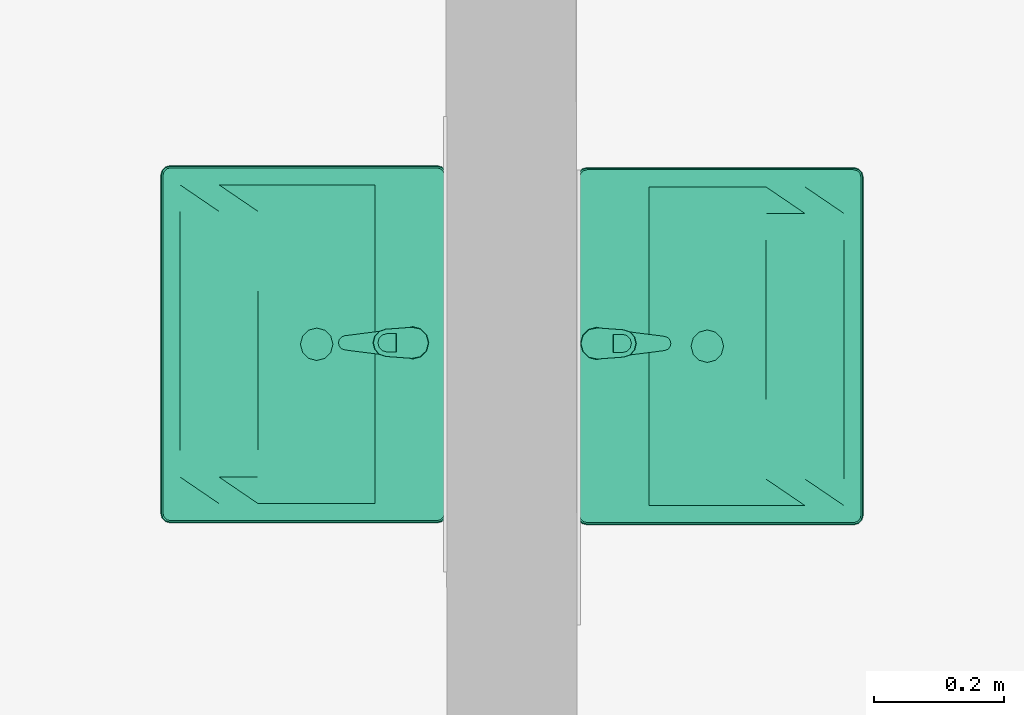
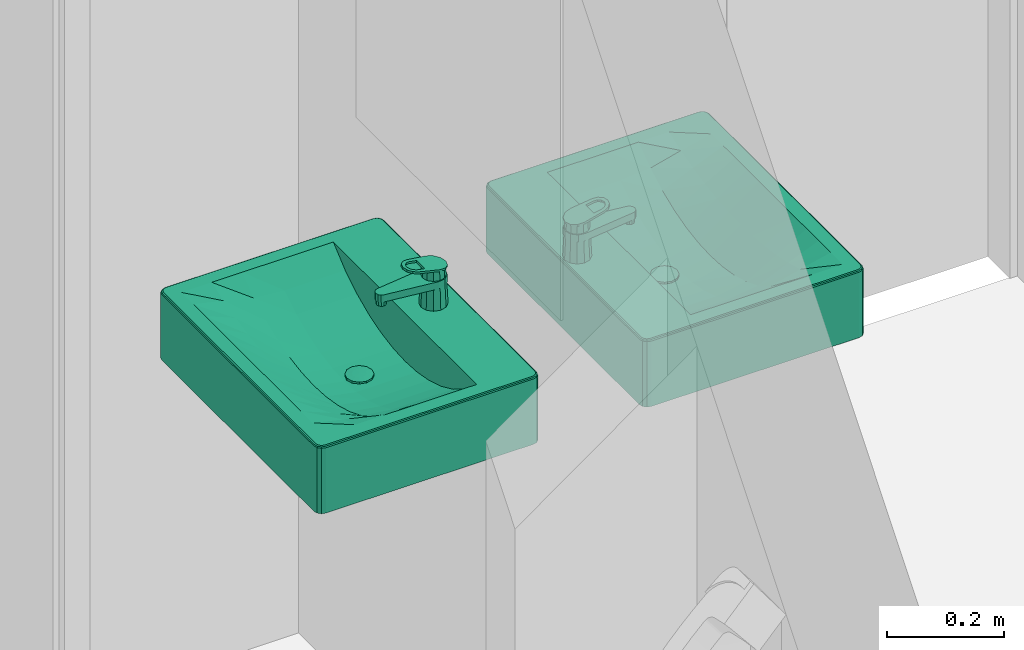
# One storey, part 75 of 127: 4 flow terminals.
"""IFC2X3 building model written with IfcOpenShell, lengths in millimetres."""

from ifc_helpers import new_model, entity, si_unit, converted_unit, derived_unit, money_unit, direction, frame, origin_with_axes, place, context, subcontext, project, spatial, open_shell, faceted_brep, surface_model, source, transform, mapped, type_object, element, save


model = new_model("IFC2X3")

# Units and contexts
model_context = context("Model", 3, precision=1e-05, world=origin_with_axes(), true_north=direction((0.0, 1.0)))
body_context = subcontext(model_context, "Body", "Model", "MODEL_VIEW")
ifc_project = project(units=[si_unit("LENGTHUNIT", "METRE", prefix="MILLI"), si_unit("AREAUNIT", "SQUARE_METRE"), si_unit("VOLUMEUNIT", "CUBIC_METRE"), converted_unit("PLANEANGLEUNIT", "DEGREE", entity("IfcPlaneAngleMeasure", 0.0174532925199), si_unit("PLANEANGLEUNIT", "RADIAN"), dimensions=[0, 0, 0, 0, 0, 0, 0]), si_unit("SOLIDANGLEUNIT", "STERADIAN"), money_unit("EUR"), converted_unit("TIMEUNIT", "Year", entity("IfcTimeMeasure", 31556926.0), si_unit("TIMEUNIT", "SECOND"), dimensions=[0, 0, 1, 0, 0, 0, 0]), si_unit("MASSUNIT", "GRAM", prefix="KILO"), si_unit("THERMODYNAMICTEMPERATUREUNIT", "DEGREE_CELSIUS"), si_unit("LUMINOUSINTENSITYUNIT", "LUMEN"), si_unit("ENERGYUNIT", "JOULE", prefix="MEGA"), derived_unit("THERMALCONDUCTANCEUNIT", [(si_unit("POWERUNIT", "WATT"), 1), (si_unit("LENGTHUNIT", "METRE"), -1), (si_unit("THERMODYNAMICTEMPERATUREUNIT", "KELVIN"), -1)]), derived_unit("SPECIFICHEATCAPACITYUNIT", [(si_unit("ENERGYUNIT", "JOULE"), 1), (si_unit("MASSUNIT", "GRAM", prefix="KILO"), -1), (si_unit("THERMODYNAMICTEMPERATUREUNIT", "KELVIN"), -1)]), derived_unit("MASSDENSITYUNIT", [(si_unit("MASSUNIT", "GRAM", prefix="KILO"), 1), (si_unit("VOLUMEUNIT", "CUBIC_METRE"), -1)])], contexts=[model_context])

# Site, building, storey
site_placement = place(None, origin_with_axes())
site = spatial("IfcSite", under=ifc_project, at=site_placement, Name="Site", CompositionType="ELEMENT")
building_placement = place(site_placement, origin_with_axes())
building = spatial("IfcBuilding", under=site, at=building_placement, Name="Building", CompositionType="ELEMENT")
storey_placement = place(building_placement, origin_with_axes())
storey = spatial("IfcBuildingStorey", under=building, at=storey_placement, Name="1 KORRUS", CompositionType="ELEMENT", Elevation=0.0)

# Flow terminals
sanitary_terminal_type_1 = type_object("IfcSanitaryTerminalType", Name="Basin 22", PredefinedType="NOTDEFINED")
shared_shape_1 = source(origin_with_axes(), body_context, "Body", "SurfaceModel", [
    faceted_brep([(260.0, -440.0, 860.0), (-260.0, -440.0, 860.0), (-267.5, -437.990381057, 860.0), (-272.990381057, -432.5, 860.0), (-275.0, -425.0, 860.0), (-275.0, -15.0, 860.0), (-272.990381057, -7.5, 860.0), (-267.5, -2.00961894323, 860.0), (-260.0, 0.0, 860.0), (260.0, 0.0, 860.0), (267.5, -2.00961894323, 860.0), (272.990381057, -7.5, 860.0), (275.0, -15.0, 860.0), (275.0, -425.0, 860.0), (272.990381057, -432.5, 860.0), (267.5, -437.990381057, 860.0), (-245.0, -410.0, 860.0), (245.0, -410.0, 860.0), (245.0, -110.0, 860.0), (-245.0, -110.0, 860.0), (259.999999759, -440.00000039, 995.0), (-259.999999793, -440.00000039, 995.0), (-267.500000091, -437.990381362, 995.0), (-272.990381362, -432.500000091, 995.0), (-275.00000039, -424.999999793, 995.0), (-275.00000039, -14.9999996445, 995.0), (-272.990381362, -7.50000027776, 995.0), (-267.500000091, -2.00961900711, 995.0), (-259.999999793, 2.02655670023e-08, 995.0), (259.999999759, 2.02655670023e-08, 995.0), (267.500000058, -2.00961900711, 995.0), (272.990381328, -7.50000027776, 995.0), (275.000000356, -14.9999996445, 995.0), (275.000000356, -424.999999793, 995.0), (272.990381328, -432.500000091, 995.0), (267.500000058, -437.990381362, 995.0), (-245.0, -410.0, 999.999999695), (245.0, -410.0, 999.999999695), (245.0, -110.0, 999.999999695), (-245.0, -110.0, 999.999999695), (259.977570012, -439.829629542, 996.294095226), (-259.977570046, -439.829629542, 996.294095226), (-267.411809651, -437.837631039, 996.294095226), (-272.837631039, -432.411809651, 996.294095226), (-274.829629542, -424.977570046, 996.294095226), (-274.829629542, -15.0224293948, 996.294095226), (-272.837631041, -7.58819072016, 996.294095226), (-267.411809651, -2.16236933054, 996.294095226), (-259.977570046, -0.170370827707, 996.294095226), (259.977570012, -0.170370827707, 996.294095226), (267.411809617, -2.16236933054, 996.294095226), (272.837631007, -7.58819072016, 996.294095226), (274.829629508, -15.0224293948, 996.294095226), (274.829629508, -424.977570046, 996.294095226), (272.837631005, -432.411809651, 996.294095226), (267.411809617, -437.837631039, 996.294095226), (-259.34173768, -4.99999712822, 999.999999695), (-264.911811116, -6.49249381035, 999.999999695), (-268.507506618, -10.0881893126, 999.999999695), (-270.000003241, -15.6582618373, 999.999999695), (-270.000003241, -424.34173768, 999.999999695), (-268.507506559, -429.911811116, 999.999999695), (-264.911811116, -433.507506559, 999.999999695), (-259.34173768, -435.000003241, 999.999999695), (259.341737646, -435.000003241, 999.999999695), (264.911811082, -433.507506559, 999.999999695), (268.507506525, -429.911811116, 999.999999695), (270.000003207, -424.34173768, 999.999999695), (270.000003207, -15.6582618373, 999.999999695), (268.507506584, -10.0881893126, 999.999999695), (264.911811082, -6.49249381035, 999.999999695), (259.341737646, -4.99999712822, 999.999999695), (259.807199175, -438.535534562, 998.535533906), (-259.807199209, -438.535534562, 998.535533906), (-266.741936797, -436.677377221, 998.535533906), (-271.677377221, -431.741936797, 998.535533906), (-273.535534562, -424.807199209, 998.535533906), (-273.535534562, -15.1928002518, 998.535533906), (-271.677377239, -8.2580635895, 998.535533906), (-266.741936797, -3.32262314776, 998.535533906), (-259.807199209, -1.46446580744, 998.535533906), (259.807199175, -1.46446580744, 998.535533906), (266.741936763, -3.32262314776, 998.535533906), (271.677377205, -8.2580635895, 998.535533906), (273.535534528, -15.1928002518, 998.535533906), (273.535534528, -424.807199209, 998.535533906), (271.677377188, -431.741936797, 998.535533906), (266.741936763, -436.677377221, 998.535533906), (-265.581682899, -5.33224184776, 999.829629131), (-259.512108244, -3.70590421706, 999.829629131), (-269.667758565, -9.41831751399, 999.829629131), (-271.294096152, -15.4878912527, 999.829629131), (-271.294096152, -424.512108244, 999.829629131), (-269.667758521, -430.581682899, 999.829629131), (-265.581682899, -434.667758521, 999.829629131), (-259.512108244, -436.294096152, 999.829629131), (259.51210821, -436.294096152, 999.829629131), (265.581682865, -434.667758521, 999.829629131), (269.667758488, -430.581682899, 999.829629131), (271.294096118, -424.512108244, 999.829629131), (271.294096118, -15.4878912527, 999.829629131), (269.667758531, -9.41831751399, 999.829629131), (265.581682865, -5.33224184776, 999.829629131), (259.51210821, -3.70590421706, 999.829629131)], [[[0, 1, 2, 3, 4, 5, 6, 7, 8, 9, 10, 11, 12, 13, 14, 15], [16, 17, 18, 19]], [[0, 20, 21, 1]], [[1, 21, 22, 2]], [[2, 22, 23, 3]], [[3, 23, 24, 4]], [[4, 24, 25, 5]], [[5, 25, 26, 6]], [[6, 26, 27, 7]], [[7, 27, 28, 8]], [[8, 28, 29, 9]], [[9, 29, 30, 10]], [[10, 30, 31, 11]], [[11, 31, 32, 12]], [[12, 32, 33, 13]], [[13, 33, 34, 14]], [[14, 34, 35, 15]], [[15, 35, 20, 0]], [[36, 37, 17, 16]], [[37, 38, 18, 17]], [[38, 39, 19, 18]], [[39, 36, 16, 19]], [[20, 40, 41, 21]], [[21, 41, 42, 22]], [[22, 42, 43, 23]], [[23, 43, 44, 24]], [[24, 44, 45, 25]], [[25, 45, 46, 26]], [[26, 46, 47, 27]], [[27, 47, 48, 28]], [[28, 48, 49, 29]], [[29, 49, 50, 30]], [[30, 50, 51, 31]], [[31, 51, 52, 32]], [[32, 52, 53, 33]], [[33, 53, 54, 34]], [[34, 54, 55, 35]], [[35, 55, 40, 20]], [[56, 57, 58, 59, 60, 61, 62, 63, 64, 65, 66, 67, 68, 69, 70, 71], [36, 39, 38, 37]], [[40, 72, 73, 41]], [[41, 73, 74, 42]], [[42, 74, 75, 43]], [[43, 75, 76, 44]], [[44, 76, 77, 45]], [[45, 77, 78, 46]], [[46, 78, 79, 47]], [[47, 79, 80, 48]], [[48, 80, 81, 49]], [[49, 81, 82, 50]], [[50, 82, 83, 51]], [[51, 83, 84, 52]], [[52, 84, 85, 53]], [[53, 85, 86, 54]], [[54, 86, 87, 55]], [[55, 87, 72, 40]], [[88, 57, 56, 89]], [[90, 58, 57, 88]], [[91, 59, 58, 90]], [[92, 60, 59, 91]], [[93, 61, 60, 92]], [[94, 62, 61, 93]], [[95, 63, 62, 94]], [[96, 64, 63, 95]], [[97, 65, 64, 96]], [[98, 66, 65, 97]], [[99, 67, 66, 98]], [[100, 68, 67, 99]], [[101, 69, 68, 100]], [[102, 70, 69, 101]], [[103, 71, 70, 102]], [[89, 56, 71, 103]], [[72, 96, 95, 73]], [[73, 95, 94, 74]], [[74, 94, 93, 75]], [[75, 93, 92, 76]], [[76, 92, 91, 77]], [[77, 91, 90, 78]], [[78, 90, 88, 79]], [[79, 88, 89, 80]], [[80, 89, 103, 81]], [[81, 103, 102, 82]], [[82, 102, 101, 83]], [[83, 101, 100, 84]], [[84, 100, 99, 85]], [[85, 99, 98, 86]], [[86, 98, 97, 87]], [[87, 97, 96, 72]]]),
    faceted_brep([(-245.0, -410.0, 860.0), (-245.0, -110.0, 860.0), (245.0, -110.0, 860.0), (245.0, -410.0, 860.0), (12.5, -221.641635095, 860.0), (21.6506350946, -212.491, 860.0), (25.0, -199.991, 860.0), (21.6506350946, -187.491, 860.0), (12.5, -178.340364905, 860.0), (0.0, -174.991, 860.0), (-12.5, -178.340364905, 860.0), (-21.6506350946, -187.491, 860.0), (-25.0, -199.991, 860.0), (-21.6506350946, -212.491, 860.0), (-12.5, -221.641635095, 860.0), (0.0, -224.991, 860.0), (-245.0, -290.0, 1000.0), (-245.0, -230.0, 1000.0), (-245.0, -170.0, 1000.0), (-245.0, -110.0, 1000.0), (-245.0, -410.0, 1000.0), (-245.0, -350.0, 1000.0), (122.5, -110.0, 922.129168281), (163.333333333, -110.0, 940.432026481), (204.166666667, -110.0, 965.689615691), (245.0, -110.0, 1000.0), (-204.166666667, -110.0, 965.689615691), (-163.333333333, -110.0, 940.432026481), (-122.5, -110.0, 922.129168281), (-81.6666666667, -110.0, 909.657569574), (-40.8333333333, -110.0, 902.389246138), (0.0, -110.0, 900.0), (40.8333333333, -110.0, 902.389246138), (81.6666666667, -110.0, 909.657569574), (245.0, -230.0, 1000.0), (245.0, -290.0, 1000.0), (245.0, -350.0, 1000.0), (245.0, -410.0, 1000.0), (245.0, -170.0, 1000.0), (-122.5, -410.0, 1000.0), (-163.333333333, -410.0, 1000.0), (-204.166666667, -410.0, 1000.0), (204.166666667, -410.0, 1000.0), (163.333333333, -410.0, 1000.0), (122.5, -410.0, 1000.0), (81.6666666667, -410.0, 1000.0), (40.8333333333, -410.0, 1000.0), (0.0, -410.0, 1000.0), (-40.8333333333, -410.0, 1000.0), (-81.6666666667, -410.0, 1000.0), (12.5, -221.641635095, 900.731401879), (21.6506350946, -212.491, 901.266825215), (25.0, -199.991, 901.462803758), (21.6506350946, -187.491, 901.266825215), (12.5, -178.340364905, 900.731401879), (0.0, -174.991, 900.0), (-12.5, -178.340364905, 900.731401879), (-21.6506350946, -187.491, 901.266825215), (-25.0, -199.991, 901.462803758), (-21.6506350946, -212.491, 901.266825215), (-12.5, -221.641635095, 900.731401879), (0.0, -224.991, 900.0), (-204.166666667, -230.0, 965.689615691), (-204.166666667, -170.0, 965.689615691), (-204.166666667, -350.0, 986.166287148), (-204.166666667, -290.0, 970.594758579), (163.333333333, -170.0, 940.432026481), (122.5, -170.0, 922.129168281), (204.166666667, -170.0, 965.689615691), (-163.333333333, -170.0, 940.432026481), (-122.5, -170.0, 922.129168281), (-81.6666666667, -170.0, 909.657569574), (-40.8333333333, -170.0, 902.389246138), (0.0, -170.0, 900.0), (40.8333333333, -170.0, 902.389246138), (81.6666666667, -170.0, 909.657569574), (204.166666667, -290.0, 970.594758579), (204.166666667, -350.0, 986.166287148), (204.166666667, -230.0, 965.689615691), (-122.5, -350.0, 966.539843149), (-163.333333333, -350.0, 975.056802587), (163.333333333, -350.0, 975.056802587), (122.5, -350.0, 966.539843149), (81.6666666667, -350.0, 960.520155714), (40.8333333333, -350.0, 956.933224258), (0.0, -350.0, 955.741663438), (-40.8333333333, -350.0, 956.933224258), (-81.6666666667, -350.0, 960.520155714), (0.0, -230.0, 900.0), (40.8333333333, -230.0, 902.389246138), (-40.8333333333, -230.0, 902.389246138), (-163.333333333, -230.0, 940.432026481), (163.333333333, -230.0, 940.432026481), (122.5, -230.0, 922.129168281), (-122.5, -230.0, 922.129168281), (-81.6666666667, -230.0, 909.657569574), (81.6666666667, -230.0, 909.657569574), (0.0, -290.0, 912.025576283), (-40.8333333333, -290.0, 914.19632473), (-163.333333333, -290.0, 948.375008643), (122.5, -290.0, 932.026603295), (163.333333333, -290.0, 948.375008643), (-122.5, -290.0, 932.026603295), (-81.6666666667, -290.0, 920.783680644), (40.8333333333, -290.0, 914.19632473), (81.6666666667, -290.0, 920.783680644)], [[[0, 1, 2, 3], [4, 5, 6, 7, 8, 9, 10, 11, 12, 13, 14, 15]], [[16, 17, 18, 19, 1, 0, 20, 21]], [[22, 23, 24, 25, 2, 1, 19, 26, 27, 28, 29, 30, 31, 32, 33]], [[34, 35, 36, 37, 3, 2, 25, 38]], [[39, 40, 41, 20, 0, 3, 37, 42, 43, 44, 45, 46, 47, 48, 49]], [[50, 51, 5, 4]], [[51, 52, 6, 5]], [[52, 53, 7, 6]], [[53, 54, 8, 7]], [[54, 55, 9, 8]], [[55, 56, 10, 9]], [[56, 57, 11, 10]], [[57, 58, 12, 11]], [[58, 59, 13, 12]], [[59, 60, 14, 13]], [[60, 61, 15, 14]], [[61, 50, 4, 15]], [[16, 62, 17]], [[62, 63, 18, 17]], [[63, 26, 19, 18]], [[20, 64, 21]], [[21, 65, 16]], [[66, 23, 22, 67]], [[68, 24, 23, 66]], [[38, 25, 24, 68]], [[69, 27, 26, 63]], [[70, 28, 27, 69]], [[71, 29, 28, 70]], [[72, 30, 29, 71]], [[73, 31, 30, 72]], [[74, 32, 31, 73]], [[75, 33, 32, 74]], [[67, 22, 33, 75]], [[76, 35, 34]], [[77, 36, 35]], [[42, 37, 36]], [[34, 38, 68, 78]], [[40, 39, 79]], [[41, 40, 80]], [[20, 41, 64]], [[43, 42, 77]], [[44, 43, 81]], [[45, 44, 82]], [[46, 45, 83]], [[47, 46, 84]], [[48, 47, 85]], [[49, 48, 86]], [[39, 49, 87]], [[54, 53, 52, 51, 50, 61, 88, 89, 74, 73, 55]], [[56, 55, 73, 72, 90, 88, 61, 60, 59, 58, 57]], [[16, 65, 62]], [[91, 69, 63, 62]], [[21, 64, 65]], [[92, 66, 67, 93]], [[78, 68, 66, 92]], [[94, 70, 69, 91]], [[95, 71, 70, 94]], [[90, 72, 71, 95]], [[96, 75, 74, 89]], [[93, 67, 75, 96]], [[77, 35, 76]], [[76, 34, 78]], [[42, 36, 77]], [[39, 87, 79]], [[40, 79, 80]], [[41, 80, 64]], [[43, 77, 81]], [[44, 81, 82]], [[45, 82, 83]], [[46, 83, 84]], [[47, 84, 85]], [[48, 85, 86]], [[49, 86, 87]], [[97, 89, 88]], [[98, 88, 90]], [[65, 91, 62]], [[64, 99, 65]], [[100, 92, 93]], [[101, 78, 92]], [[99, 94, 91]], [[102, 95, 94]], [[103, 90, 95]], [[104, 96, 89]], [[105, 93, 96]], [[81, 77, 76]], [[101, 76, 78]], [[79, 87, 103]], [[80, 79, 102]], [[64, 80, 99]], [[82, 81, 101]], [[83, 82, 100]], [[84, 83, 105]], [[85, 84, 104]], [[86, 85, 97]], [[87, 86, 98]], [[97, 104, 89]], [[98, 97, 88]], [[103, 98, 90]], [[65, 99, 91]], [[100, 101, 92]], [[105, 100, 93]], [[99, 102, 94]], [[102, 103, 95]], [[104, 105, 96]], [[81, 76, 101]], [[87, 98, 103]], [[79, 103, 102]], [[80, 102, 99]], [[82, 101, 100]], [[83, 100, 105]], [[84, 105, 104]], [[85, 104, 97]], [[86, 97, 98]]]),
    faceted_brep([(21.6506350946, -212.491, 900.0), (12.5, -221.641635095, 900.0), (0.0, -224.991, 900.0), (-12.5, -221.641635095, 900.0), (-21.6506350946, -212.491, 900.0), (-25.0, -199.991, 900.0), (-21.6506350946, -187.491, 900.0), (-12.5, -178.340364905, 900.0), (0.0, -174.991, 900.0), (12.5, -178.340364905, 900.0), (21.6506350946, -187.491, 900.0), (25.0, -199.991, 900.0), (21.6506350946, -212.491, 905.0), (12.5, -221.641635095, 905.0), (0.0, -224.991, 905.0), (-12.5, -221.641635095, 905.0), (-21.6506350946, -212.491, 905.0), (-25.0, -199.991, 905.0), (-21.6506350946, -187.491, 905.0), (-12.5, -178.340364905, 905.0), (0.0, -174.991, 905.0), (12.5, -178.340364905, 905.0), (21.6506350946, -187.491, 905.0), (25.0, -199.991, 905.0)], [[[0, 1, 2, 3, 4, 5, 6, 7, 8, 9, 10, 11]], [[1, 0, 12, 13]], [[2, 1, 13, 14]], [[3, 2, 14, 15]], [[4, 3, 15, 16]], [[5, 4, 16, 17]], [[6, 5, 17, 18]], [[7, 6, 18, 19]], [[8, 7, 19, 20]], [[9, 8, 20, 21]], [[10, 9, 21, 22]], [[11, 10, 22, 23]], [[0, 11, 23, 12]], [[12, 23, 22, 21, 20, 19, 18, 17, 16, 15, 14, 13]]]),
    surface_model("IfcShellBasedSurfaceModel", [(0.0, -199.991, 907.0), (0.0, -187.369094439, 906.49757372), (-6.31095278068, -189.06010914, 906.49757372), (6.31095278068, -189.06010914, 906.49757372), (0.0, -174.991, 905.0), (-12.5, -178.340364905, 905.0), (-10.9308908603, -193.680047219, 906.49757372), (10.9308908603, -193.680047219, 906.49757372), (12.5, -178.340364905, 905.0), (-21.6506350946, -187.491, 905.0), (-12.6219055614, -199.991, 906.49757372), (12.6219055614, -199.991, 906.49757372), (21.6506350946, -187.491, 905.0), (-25.0, -199.991, 905.0), (-10.9308908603, -206.301952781, 906.49757372), (10.9308908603, -206.301952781, 906.49757372), (25.0, -199.991, 905.0), (-21.6506350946, -212.491, 905.0), (-6.31095278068, -210.92189086, 906.49757372), (6.31095278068, -210.92189086, 906.49757372), (21.6506350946, -212.491, 905.0), (-12.5, -221.641635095, 905.0), (0.0, -212.612905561, 906.49757372), (12.5, -221.641635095, 905.0), (0.0, -224.991, 905.0)], [open_shell([[[0, 1, 2]], [[0, 3, 1]], [[2, 1, 4, 5]], [[0, 2, 6]], [[0, 7, 3]], [[1, 3, 8, 4]], [[6, 2, 5, 9]], [[0, 6, 10]], [[0, 11, 7]], [[3, 7, 12, 8]], [[10, 6, 9, 13]], [[0, 10, 14]], [[0, 15, 11]], [[7, 11, 16, 12]], [[14, 10, 13, 17]], [[0, 14, 18]], [[0, 19, 15]], [[11, 15, 20, 16]], [[18, 14, 17, 21]], [[0, 18, 22]], [[0, 22, 19]], [[15, 19, 23, 20]], [[22, 18, 21, 24]], [[19, 22, 24, 23]]])]),
])
for number, where, z_axis, x_axis in (
    (1, (26291.5702934, 38036.6468924, 40.0), (0.0, 0.0, 1.0), (0.0, -1.0, 0.0)),
    (2, (26492.1331116, 38033.6949105, 40.0), (0.0, 0.0, 1.0), (0.0, 1.0, 0.0)),
):
    element("IfcFlowTerminal", number, at=place(storey_placement, frame(where, z_axis=z_axis, x_axis=x_axis)), inside=storey, type_object=sanitary_terminal_type_1, Name="Valamu", context=body_context, shape_type="MappedRepresentation", body=[
        mapped(shared_shape_1, transform((0.0, 0.0, 0.0))),
    ])
sanitary_terminal_type_2 = type_object("IfcSanitaryTerminalType", Name="Tap 22", PredefinedType="NOTDEFINED")
shared_shape_2 = source(origin_with_axes(), body_context, "Body", "Brep", [
    faceted_brep([(12.5, 21.6506350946, 1000.0), (0.0, 25.0, 1000.0), (0.0, 21.2019230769, 1075.96153846), (10.5873227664, 18.3377809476, 1076.50708934), (21.6506350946, 12.5, 1000.0), (25.0, 0.0, 1000.0), (21.6506350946, -12.5, 1000.0), (12.5, -21.6506350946, 1000.0), (0.0, -25.0, 1000.0), (-12.5, -21.6506350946, 1000.0), (-21.6506350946, -12.5, 1000.0), (-25.0, 0.0, 1000.0), (-21.6506350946, 12.5, 1000.0), (-12.5, 21.6506350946, 1000.0), (-10.5873227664, 18.3377809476, 1076.50708934), (-18.2735503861, 10.5502392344, 1077.99043062), (-21.0, 0.0, 1080.0), (-18.1003413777, -10.4502369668, 1081.99052133), (-10.4141059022, -18.037760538, 1083.43576391), (0.0, -20.8018867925, 1083.96226415), (10.4141059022, -18.037760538, 1083.43576391), (18.1003413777, -10.4502369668, 1081.99052133), (21.0, 0.0, 1080.0), (18.2735503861, 10.5502392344, 1077.99043062)], [[[0, 1, 2, 3]], [[0, 4, 5, 6, 7, 8, 9, 10, 11, 12, 13, 1]], [[1, 13, 14, 2]], [[3, 2, 14, 15, 16, 17, 18, 19, 20, 21, 22, 23]], [[4, 0, 3, 23]], [[5, 4, 23, 22]], [[6, 5, 22, 21]], [[7, 6, 21, 20]], [[8, 7, 20, 19]], [[9, 8, 19, 18]], [[10, 9, 18, 17]], [[11, 10, 17, 16]], [[12, 11, 16, 15]], [[13, 12, 15, 14]]]),
    faceted_brep([(9.0, -103.0, 1035.0), (7.79422863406, -98.5, 1035.0), (7.79422863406, -98.5, 1045.0), (9.0, -103.0, 1045.0), (7.79422863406, -107.5, 1035.0), (4.5, -110.794228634, 1035.0), (0.0, -112.0, 1035.0), (-4.5, -110.794228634, 1035.0), (-7.79422863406, -107.5, 1035.0), (-9.0, -103.0, 1035.0), (-7.79422863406, -98.5, 1035.0), (-4.5, -95.2057713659, 1035.0), (0.0, -94.0, 1035.0), (4.5, -95.2057713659, 1035.0), (4.5, -95.2057713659, 1045.0), (0.0, -94.0, 1045.0), (-4.5, -95.2057713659, 1045.0), (-7.79422863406, -98.5, 1045.0), (-9.0, -103.0, 1045.0), (-7.79422863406, -107.5, 1045.0), (-4.5, -110.794228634, 1045.0), (0.0, -112.0, 1045.0), (4.5, -110.794228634, 1045.0), (7.79422863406, -107.5, 1045.0)], [[[0, 1, 2, 3]], [[0, 4, 5, 6, 7, 8, 9, 10, 11, 12, 13, 1]], [[1, 13, 14, 2]], [[3, 2, 14, 15, 16, 17, 18, 19, 20, 21, 22, 23]], [[4, 0, 3, 23]], [[5, 4, 23, 22]], [[6, 5, 22, 21]], [[7, 6, 21, 20]], [[8, 7, 20, 19]], [[9, 8, 19, 18]], [[10, 9, 18, 17]], [[11, 10, 17, 16]], [[12, 11, 16, 15]], [[13, 12, 15, 14]]]),
    faceted_brep([(-12.8717176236, 20.2563038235, 1060.0), (-21.727805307, 10.1932053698, 1060.0), (-23.8054, -3.0499, 1060.0), (-10.911990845, -104.388371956, 1060.0), (-9.02887546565, -109.283194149, 1060.0), (-5.09332449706, -112.749726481, 1060.0), (3.62679860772e-05, -113.99996004, 1060.0), (5.09338878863, -112.749692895, 1060.0), (9.02891689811, -109.283134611, 1060.0), (10.912, -104.3883, 1060.0), (23.8053997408, -3.04990202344, 1060.0), (21.7278061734, 10.193203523, 1060.0), (12.8717193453, 20.2563027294, 1060.0), (1.01998896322e-06, 23.999978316, 1060.0), (11.0, 19.0525588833, 1060.0), (19.0525588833, 11.0, 1060.0), (22.0, 0.0, 1060.0), (19.0525588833, -11.0, 1060.0), (11.0, -19.0525588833, 1060.0), (0.0, -22.0, 1060.0), (-11.0, -19.0525588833, 1060.0), (-19.0525588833, -11.0, 1060.0), (-22.0, 0.0, 1060.0), (-19.0525588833, 11.0, 1060.0), (-11.0, 19.0525588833, 1060.0), (0.0, 22.0, 1060.0), (-21.727805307, 10.1932053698, 1045.0), (-12.8717176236, 20.2563038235, 1045.0), (-23.8054, -3.0499, 1045.0), (-10.911990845, -104.388371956, 1045.0), (-9.02887546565, -109.283194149, 1045.0), (-5.09332449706, -112.749726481, 1045.0), (3.62679860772e-05, -113.99996004, 1045.0), (5.09338878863, -112.749692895, 1045.0), (9.02891689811, -109.283134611, 1045.0), (10.912, -104.3883, 1045.0), (23.8053997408, -3.04990202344, 1045.0), (21.7278061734, 10.193203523, 1045.0), (12.8717193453, 20.2563027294, 1045.0), (1.01998896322e-06, 23.999978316, 1045.0), (11.375, 19.7020779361, 1045.0), (19.7020779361, 11.375, 1045.0), (22.75, 0.0, 1045.0), (19.7020779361, -11.375, 1045.0), (11.375, -19.7020779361, 1045.0), (0.0, -22.75, 1045.0), (-11.375, -19.7020779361, 1045.0), (-19.7020779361, -11.375, 1045.0), (-22.75, 0.0, 1045.0), (-19.7020779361, 11.375, 1045.0), (-11.375, 19.7020779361, 1045.0), (0.0, 22.75, 1045.0)], [[[0, 1, 2, 3, 4, 5, 6, 7, 8, 9, 10, 11, 12, 13], [14, 15, 16, 17, 18, 19, 20, 21, 22, 23, 24, 25]], [[26, 1, 0, 27]], [[28, 2, 1, 26]], [[29, 3, 2, 28]], [[30, 4, 3, 29]], [[31, 5, 4, 30]], [[32, 6, 5, 31]], [[33, 7, 6, 32]], [[34, 8, 7, 33]], [[35, 9, 8, 34]], [[36, 10, 9, 35]], [[37, 11, 10, 36]], [[38, 12, 11, 37]], [[39, 13, 12, 38]], [[27, 0, 13, 39]], [[40, 41, 15, 14]], [[41, 42, 16, 15]], [[42, 43, 17, 16]], [[43, 44, 18, 17]], [[44, 45, 19, 18]], [[20, 19, 45, 46]], [[21, 20, 46, 47]], [[22, 21, 47, 48]], [[23, 22, 48, 49]], [[24, 23, 49, 50]], [[50, 51, 25, 24]], [[51, 40, 14, 25]], [[32, 31, 30, 29, 28, 26, 27, 39, 38, 37, 36, 35, 34, 33], [44, 43, 42, 41, 40, 51, 50, 49, 48, 47, 46, 45]]]),
    faceted_brep([(23.893, -1.69256934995, 1080.32239416), (21.2964214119, 10.774718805, 1077.94767261), (21.2964214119, 11.5231672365, 1081.87702687), (23.893, -0.944120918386, 1084.25174843), (20.9459364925, -41.8367022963, 1087.96889568), (17.6631391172, -51.5143665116, 1089.81226029), (10.0614352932, -58.4637460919, 1091.13595164), (-0.000442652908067, -60.9856119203, 1091.61630703), (-10.0622123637, -58.4633294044, 1091.13587227), (-17.6636179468, -51.5136350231, 1089.81212096), (-20.946, -41.8358348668, 1087.96873045), (-23.893020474, -1.69229042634, 1080.32234103), (-21.2962910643, 10.7749674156, 1077.94762525), (-12.4716815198, 20.0911974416, 1076.17310525), (0.000142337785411, 23.5319645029, 1075.51772105), (12.4719245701, 20.0910518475, 1076.17313298), (14.0, -25.540802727, 1084.86491481), (-14.0, -25.540802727, 1084.86491481), (-14.0, -40.3564329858, 1087.68693962), (-12.124355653, -47.2328029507, 1088.99672437), (-7.0, -52.2666551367, 1089.95555336), (0.0, -54.1091729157, 1090.30650913), (7.0, -52.2666551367, 1089.95555336), (12.124355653, -47.2328029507, 1088.99672437), (14.0, -40.3564329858, 1087.68693962), (12.4719245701, 20.8395002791, 1080.10248725), (0.000142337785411, 24.2804129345, 1079.44707531), (-12.4716815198, 20.8396458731, 1080.10245951), (-21.2962910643, 11.5234158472, 1081.87697952), (-23.893020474, -0.943841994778, 1084.2516953), (-20.946, -41.0873864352, 1091.89808472), (-17.6636179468, -50.7651865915, 1093.74147522), (-10.0622123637, -57.7148809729, 1095.06522653), (-0.000442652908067, -60.2371634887, 1095.5456613), (10.0614352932, -57.7152976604, 1095.0653059), (17.6631391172, -50.7659180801, 1093.74161455), (20.9459364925, -41.0882538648, 1091.89824994), (14.0, -24.7923542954, 1088.79426907), (14.0, -39.6079845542, 1091.61629388), (12.124355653, -46.4843545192, 1092.92607864), (7.0, -51.5182067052, 1093.88490763), (0.0, -53.3607244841, 1094.23586339), (-7.0, -51.5182067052, 1093.88490763), (-12.124355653, -46.4843545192, 1092.92607864), (-14.0, -39.6079845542, 1091.61629388), (-14.0, -24.7923542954, 1088.79426907)], [[[0, 1, 2, 3]], [[0, 4, 5, 6, 7, 8, 9, 10, 11, 12, 13, 14, 15, 1], [16, 17, 18, 19, 20, 21, 22, 23, 24]], [[1, 15, 25, 2]], [[3, 2, 25, 26, 27, 28, 29, 30, 31, 32, 33, 34, 35, 36], [37, 38, 39, 40, 41, 42, 43, 44, 45]], [[4, 0, 3, 36]], [[5, 4, 36, 35]], [[6, 5, 35, 34]], [[7, 6, 34, 33]], [[8, 7, 33, 32]], [[9, 8, 32, 31]], [[10, 9, 31, 30]], [[11, 10, 30, 29]], [[12, 11, 29, 28]], [[13, 12, 28, 27]], [[14, 13, 27, 26]], [[15, 14, 26, 25]], [[17, 16, 37, 45]], [[18, 17, 45, 44]], [[19, 18, 44, 43]], [[20, 19, 43, 42]], [[21, 20, 42, 41]], [[22, 21, 41, 40]], [[23, 22, 40, 39]], [[24, 23, 39, 38]], [[16, 24, 38, 37]]]),
])
for number, where, z_axis, x_axis in (
    (3, (26239.0368995, 38038.863087, 40.0), (0.0, 0.0, 1.0), (0.0, -1.0, 0.0)),
    (4, (26522.1331116, 38037.8853616, 40.0), (0.0, 0.0, 1.0), (0.0, 1.0, 0.0)),
):
    element("IfcFlowTerminal", number, at=place(storey_placement, frame(where, z_axis=z_axis, x_axis=x_axis)), inside=storey, type_object=sanitary_terminal_type_2, Name="Valamu", context=body_context, shape_type="MappedRepresentation", body=[
        mapped(shared_shape_2, transform((0.0, 0.0, 0.0))),
    ])

save(model, "model.ifc")
